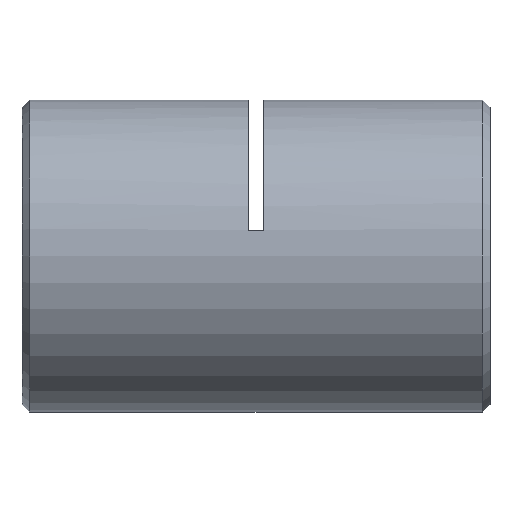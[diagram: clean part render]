
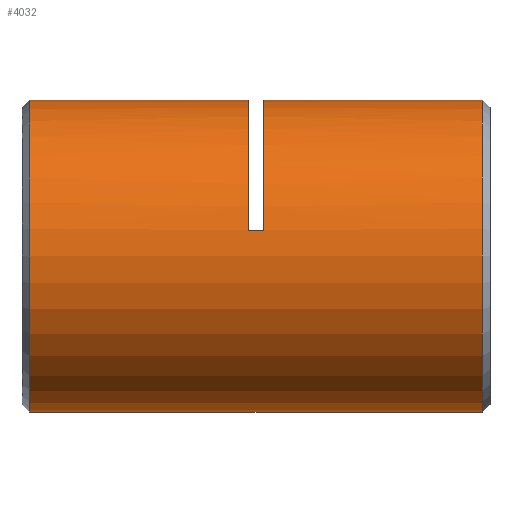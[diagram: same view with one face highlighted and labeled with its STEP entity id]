
A CAD part, left-side view. The second image highlights one B-rep face of the part: STEP entity #4032.
In plain terms, the highlighted cylindrical face has radius 10 mm (diameter 20 mm), a partial arc.
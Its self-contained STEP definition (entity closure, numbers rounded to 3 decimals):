
#223 = DIRECTION ( 'NONE',  ( 0., 0., 1. ) ) ;
#236 = AXIS2_PLACEMENT_3D ( 'NONE', #713, #3888, #1204 ) ;
#247 = CYLINDRICAL_SURFACE ( 'NONE', #236, 10. ) ;
#350 = EDGE_LOOP ( 'NONE', ( #2093, #2438, #481, #2297, #3941, #1012, #757, #5784 ) ) ;
#372 = DIRECTION ( 'NONE',  ( 0., -1., 0. ) ) ;
#446 = CARTESIAN_POINT ( 'NONE',  ( -9.86, 15.25, 1.667 ) ) ;
#481 = ORIENTED_EDGE ( 'NONE', *, *, #983, .T. ) ;
#577 = DIRECTION ( 'NONE',  ( 0., 1., 0. ) ) ;
#713 = CARTESIAN_POINT ( 'NONE',  ( 0., 0., 0. ) ) ;
#757 = ORIENTED_EDGE ( 'NONE', *, *, #5337, .T. ) ;
#813 = VERTEX_POINT ( 'NONE', #3597 ) ;
#966 = VERTEX_POINT ( 'NONE', #4991 ) ;
#981 = VERTEX_POINT ( 'NONE', #2810 ) ;
#983 = EDGE_CURVE ( 'NONE', #4475, #4390, #2038, .T. ) ;
#993 = CARTESIAN_POINT ( 'NONE',  ( 0., 0., 10. ) ) ;
#994 = DIRECTION ( 'NONE',  ( 0., 0., 1. ) ) ;
#1012 = ORIENTED_EDGE ( 'NONE', *, *, #1038, .T. ) ;
#1038 = EDGE_CURVE ( 'NONE', #813, #981, #3077, .T. ) ;
#1154 = AXIS2_PLACEMENT_3D ( 'NONE', #4274, #4211, #1998 ) ;
#1204 = DIRECTION ( 'NONE',  ( 0., 0., 1. ) ) ;
#1210 = CARTESIAN_POINT ( 'NONE',  ( 0., 0.75, 10. ) ) ;
#1212 = DIRECTION ( 'NONE',  ( 0., 0., -1. ) ) ;
#1629 = CARTESIAN_POINT ( 'NONE',  ( 0., 29.75, -10. ) ) ;
#1852 = EDGE_CURVE ( 'NONE', #966, #4390, #5823, .T. ) ;
#1914 = AXIS2_PLACEMENT_3D ( 'NONE', #3207, #577, #994 ) ;
#1979 = VERTEX_POINT ( 'NONE', #1629 ) ;
#1981 = DIRECTION ( 'NONE',  ( 0., 1., 0. ) ) ;
#1982 = AXIS2_PLACEMENT_3D ( 'NONE', #4214, #1981, #223 ) ;
#1998 = DIRECTION ( 'NONE',  ( 0., 0., 1. ) ) ;
#2038 = LINE ( 'NONE', #5024, #4893 ) ;
#2093 = ORIENTED_EDGE ( 'NONE', *, *, #2629, .F. ) ;
#2297 = ORIENTED_EDGE ( 'NONE', *, *, #1852, .F. ) ;
#2438 = ORIENTED_EDGE ( 'NONE', *, *, #4154, .T. ) ;
#2629 = EDGE_CURVE ( 'NONE', #4326, #1979, #2986, .T. ) ;
#2687 = AXIS2_PLACEMENT_3D ( 'NONE', #5211, #372, #1212 ) ;
#2810 = CARTESIAN_POINT ( 'NONE',  ( 0., 15.75, 10. ) ) ;
#2986 = LINE ( 'NONE', #5000, #4443 ) ;
#3044 = LINE ( 'NONE', #446, #4366 ) ;
#3047 = EDGE_CURVE ( 'NONE', #3439, #1979, #4864, .T. ) ;
#3077 = CIRCLE ( 'NONE', #1914, 10. ) ;
#3109 = DIRECTION ( 'NONE',  ( 0., 1., 0. ) ) ;
#3206 = DIRECTION ( 'NONE',  ( 0., 1., 0. ) ) ;
#3207 = CARTESIAN_POINT ( 'NONE',  ( 0., 15.75, 0. ) ) ;
#3216 = DIRECTION ( 'NONE',  ( 0., 1., 0. ) ) ;
#3439 = VERTEX_POINT ( 'NONE', #3879 ) ;
#3457 = LINE ( 'NONE', #993, #4503 ) ;
#3526 = CIRCLE ( 'NONE', #1154, 10. ) ;
#3572 = CARTESIAN_POINT ( 'NONE',  ( 0., 14.75, 10. ) ) ;
#3597 = CARTESIAN_POINT ( 'NONE',  ( -9.86, 15.75, 1.667 ) ) ;
#3813 = FACE_OUTER_BOUND ( 'NONE', #350, .T. ) ;
#3879 = CARTESIAN_POINT ( 'NONE',  ( 0., 29.75, 10. ) ) ;
#3888 = DIRECTION ( 'NONE',  ( 0., 1., 0. ) ) ;
#3941 = ORIENTED_EDGE ( 'NONE', *, *, #4351, .T. ) ;
#4032 = ADVANCED_FACE ( 'NONE', ( #3813 ), #247, .T. ) ;
#4142 = DIRECTION ( 'NONE',  ( 0., 1., 0. ) ) ;
#4154 = EDGE_CURVE ( 'NONE', #4326, #4475, #3526, .T. ) ;
#4211 = DIRECTION ( 'NONE',  ( 0., 1., 0. ) ) ;
#4214 = CARTESIAN_POINT ( 'NONE',  ( 0., 14.75, 0. ) ) ;
#4274 = CARTESIAN_POINT ( 'NONE',  ( 0., 0.75, 0. ) ) ;
#4326 = VERTEX_POINT ( 'NONE', #4471 ) ;
#4351 = EDGE_CURVE ( 'NONE', #966, #813, #3044, .T. ) ;
#4366 = VECTOR ( 'NONE', #3109, 1000. ) ;
#4390 = VERTEX_POINT ( 'NONE', #3572 ) ;
#4443 = VECTOR ( 'NONE', #3216, 1000. ) ;
#4471 = CARTESIAN_POINT ( 'NONE',  ( 0., 0.75, -10. ) ) ;
#4475 = VERTEX_POINT ( 'NONE', #1210 ) ;
#4503 = VECTOR ( 'NONE', #3206, 1000. ) ;
#4864 = CIRCLE ( 'NONE', #2687, 10. ) ;
#4893 = VECTOR ( 'NONE', #4142, 1000. ) ;
#4991 = CARTESIAN_POINT ( 'NONE',  ( -9.86, 14.75, 1.667 ) ) ;
#5000 = CARTESIAN_POINT ( 'NONE',  ( 0., 0., -10. ) ) ;
#5024 = CARTESIAN_POINT ( 'NONE',  ( 0., 0., 10. ) ) ;
#5211 = CARTESIAN_POINT ( 'NONE',  ( 0., 29.75, 0. ) ) ;
#5337 = EDGE_CURVE ( 'NONE', #981, #3439, #3457, .T. ) ;
#5784 = ORIENTED_EDGE ( 'NONE', *, *, #3047, .T. ) ;
#5823 = CIRCLE ( 'NONE', #1982, 10. ) ;
